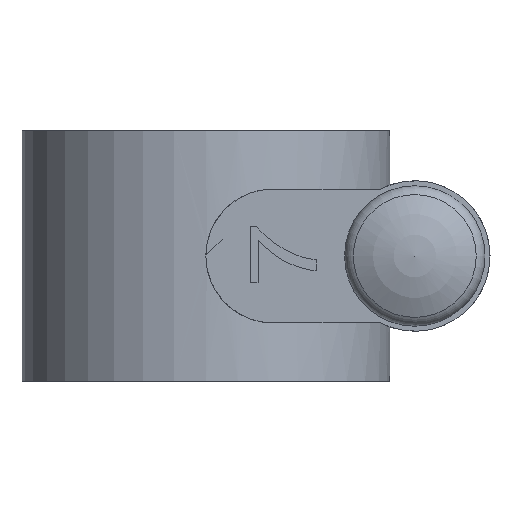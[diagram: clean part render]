
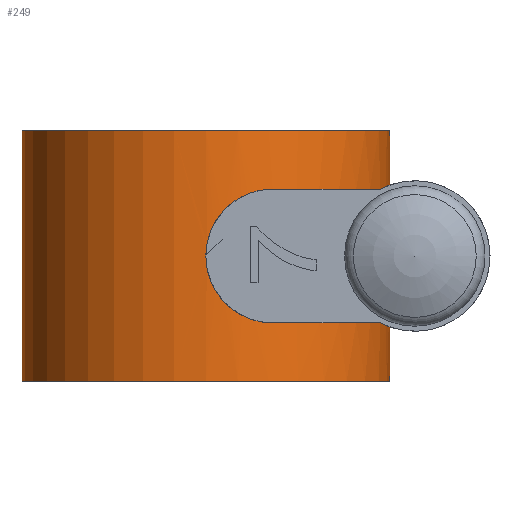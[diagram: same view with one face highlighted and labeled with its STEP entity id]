
A CAD part, front view. The second image highlights one B-rep face of the part: STEP entity #249.
In plain terms, the highlighted cylindrical face has radius 5.5 mm (diameter 11 mm), a partial arc.
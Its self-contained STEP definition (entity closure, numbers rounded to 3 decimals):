
#81=B_SPLINE_CURVE_WITH_KNOTS('',3,(#1064,#1065,#1066,#1067,#1068,#1069,
#1070,#1071,#1072,#1073,#1074,#1075,#1076,#1077,#1078,#1079,#1080,#1081,
#1082),.UNSPECIFIED.,.F.,.F.,(4,3,3,3,3,3,4),(0.,0.043,0.255,
0.467,0.676,0.881,1.),.UNSPECIFIED.);
#82=B_SPLINE_CURVE_WITH_KNOTS('',3,(#1139,#1140,#1141,#1142),
 .UNSPECIFIED.,.F.,.F.,(4,4),(0.,1.),.UNSPECIFIED.);
#83=B_SPLINE_CURVE_WITH_KNOTS('',3,(#1143,#1144,#1145,#1146),
 .UNSPECIFIED.,.F.,.F.,(4,4),(0.,1.),.UNSPECIFIED.);
#84=B_SPLINE_CURVE_WITH_KNOTS('',3,(#1149,#1150,#1151,#1152,#1153,#1154,
#1155,#1156,#1157,#1158,#1159,#1160,#1161,#1162,#1163,#1164),
 .UNSPECIFIED.,.F.,.F.,(4,3,3,3,3,4),(0.,0.211,0.422,
0.626,0.832,1.),.UNSPECIFIED.);
#129=CYLINDRICAL_SURFACE('',#755,5.5);
#151=LINE('',#1039,#198);
#161=LINE('',#1086,#208);
#164=LINE('',#1134,#211);
#198=VECTOR('',#829,1.);
#208=VECTOR('',#857,1.);
#211=VECTOR('',#874,1.);
#249=ADVANCED_FACE('',(#290),#129,.T.);
#290=FACE_OUTER_BOUND('',#322,.T.);
#322=EDGE_LOOP('',(#421,#422,#423,#424,#425,#426,#427,#428,#429,#430,#431));
#421=ORIENTED_EDGE('',*,*,#640,.F.);
#422=ORIENTED_EDGE('',*,*,#641,.T.);
#423=ORIENTED_EDGE('',*,*,#630,.T.);
#424=ORIENTED_EDGE('',*,*,#596,.T.);
#425=ORIENTED_EDGE('',*,*,#615,.F.);
#426=ORIENTED_EDGE('',*,*,#604,.F.);
#427=ORIENTED_EDGE('',*,*,#639,.T.);
#428=ORIENTED_EDGE('',*,*,#642,.T.);
#429=ORIENTED_EDGE('',*,*,#643,.F.);
#430=ORIENTED_EDGE('',*,*,#628,.F.);
#431=ORIENTED_EDGE('',*,*,#644,.F.);
#521=VERTEX_POINT('',#1002);
#522=VERTEX_POINT('',#1003);
#529=VERTEX_POINT('',#1019);
#530=VERTEX_POINT('',#1020);
#544=VERTEX_POINT('',#1063);
#545=VERTEX_POINT('',#1083);
#546=VERTEX_POINT('',#1087);
#551=VERTEX_POINT('',#1133);
#552=VERTEX_POINT('',#1137);
#553=VERTEX_POINT('',#1138);
#554=VERTEX_POINT('',#1147);
#596=EDGE_CURVE('',#521,#522,#696,.T.);
#604=EDGE_CURVE('',#529,#530,#698,.T.);
#615=EDGE_CURVE('',#530,#522,#151,.T.);
#628=EDGE_CURVE('',#544,#545,#81,.T.);
#630=EDGE_CURVE('',#546,#521,#161,.T.);
#639=EDGE_CURVE('',#529,#551,#164,.T.);
#640=EDGE_CURVE('',#552,#553,#710,.T.);
#641=EDGE_CURVE('',#552,#546,#82,.T.);
#642=EDGE_CURVE('',#551,#554,#83,.T.);
#643=EDGE_CURVE('',#545,#554,#711,.T.);
#644=EDGE_CURVE('',#553,#544,#84,.T.);
#696=CIRCLE('',#729,5.5);
#698=CIRCLE('',#732,5.5);
#710=CIRCLE('',#753,5.5);
#711=CIRCLE('',#754,5.5);
#729=AXIS2_PLACEMENT_3D('',#1001,#800,#801);
#732=AXIS2_PLACEMENT_3D('',#1018,#812,#813);
#753=AXIS2_PLACEMENT_3D('',#1136,#877,#878);
#754=AXIS2_PLACEMENT_3D('',#1148,#879,#880);
#755=AXIS2_PLACEMENT_3D('',#1165,#881,#882);
#800=DIRECTION('',(0.,0.,-1.));
#801=DIRECTION('',(-1.,0.,0.));
#812=DIRECTION('',(0.,0.,-1.));
#813=DIRECTION('',(-1.,0.,0.));
#829=DIRECTION('',(0.,0.,1.));
#857=DIRECTION('',(0.,0.,1.));
#874=DIRECTION('',(0.,0.,1.));
#877=DIRECTION('',(0.,0.,-1.));
#878=DIRECTION('',(-1.,0.,0.));
#879=DIRECTION('',(0.,0.,1.));
#880=DIRECTION('',(1.,0.,0.));
#881=DIRECTION('',(0.,0.,1.));
#882=DIRECTION('',(1.,0.,0.));
#1001=CARTESIAN_POINT('',(-3.,0.,3.75));
#1002=CARTESIAN_POINT('',(2.5,0.,3.75));
#1003=CARTESIAN_POINT('',(-8.5,0.,3.75));
#1018=CARTESIAN_POINT('',(-3.,0.,-3.75));
#1019=CARTESIAN_POINT('',(2.5,0.,-3.75));
#1020=CARTESIAN_POINT('',(-8.5,0.,-3.75));
#1039=CARTESIAN_POINT('',(-8.5,0.,-3.75));
#1063=CARTESIAN_POINT('',(-3.,-5.5,0.));
#1064=CARTESIAN_POINT('',(-3.,-5.5,0.));
#1065=CARTESIAN_POINT('',(-3.,-5.5,-0.046));
#1066=CARTESIAN_POINT('',(-2.998,-5.5,-0.092));
#1067=CARTESIAN_POINT('',(-2.995,-5.5,-0.138));
#1068=CARTESIAN_POINT('',(-2.98,-5.5,-0.361));
#1069=CARTESIAN_POINT('',(-2.926,-5.5,-0.585));
#1070=CARTESIAN_POINT('',(-2.837,-5.498,-0.791));
#1071=CARTESIAN_POINT('',(-2.749,-5.495,-0.996));
#1072=CARTESIAN_POINT('',(-2.623,-5.489,-1.189));
#1073=CARTESIAN_POINT('',(-2.472,-5.475,-1.354));
#1074=CARTESIAN_POINT('',(-2.323,-5.46,-1.516));
#1075=CARTESIAN_POINT('',(-2.143,-5.436,-1.655));
#1076=CARTESIAN_POINT('',(-1.951,-5.399,-1.759));
#1077=CARTESIAN_POINT('',(-1.764,-5.363,-1.861));
#1078=CARTESIAN_POINT('',(-1.559,-5.312,-1.931));
#1079=CARTESIAN_POINT('',(-1.355,-5.248,-1.968));
#1080=CARTESIAN_POINT('',(-1.237,-5.211,-1.99));
#1081=CARTESIAN_POINT('',(-1.117,-5.169,-2.));
#1082=CARTESIAN_POINT('',(-1.,-5.123,-2.));
#1083=CARTESIAN_POINT('',(-1.,-5.123,-2.));
#1086=CARTESIAN_POINT('',(2.5,0.,-3.75));
#1087=CARTESIAN_POINT('',(2.5,0.,2.121));
#1133=CARTESIAN_POINT('',(2.5,0.,-2.121));
#1134=CARTESIAN_POINT('',(2.5,0.,-3.75));
#1136=CARTESIAN_POINT('',(-3.,0.,2.));
#1137=CARTESIAN_POINT('',(2.219,-1.735,2.));
#1138=CARTESIAN_POINT('',(-1.,-5.123,2.));
#1139=CARTESIAN_POINT('',(2.219,-1.735,2.));
#1140=CARTESIAN_POINT('',(2.403,-1.181,2.095));
#1141=CARTESIAN_POINT('',(2.5,-0.595,2.121));
#1142=CARTESIAN_POINT('',(2.5,0.,2.121));
#1143=CARTESIAN_POINT('',(2.5,0.,-2.121));
#1144=CARTESIAN_POINT('',(2.5,-0.596,-2.121));
#1145=CARTESIAN_POINT('',(2.405,-1.177,-2.096));
#1146=CARTESIAN_POINT('',(2.219,-1.735,-2.));
#1147=CARTESIAN_POINT('',(2.219,-1.735,-2.));
#1148=CARTESIAN_POINT('',(-3.,0.,-2.));
#1149=CARTESIAN_POINT('',(-1.,-5.123,2.));
#1150=CARTESIAN_POINT('',(-1.207,-5.204,2.));
#1151=CARTESIAN_POINT('',(-1.423,-5.273,1.967));
#1152=CARTESIAN_POINT('',(-1.629,-5.326,1.899));
#1153=CARTESIAN_POINT('',(-1.834,-5.379,1.831));
#1154=CARTESIAN_POINT('',(-2.035,-5.418,1.726));
#1155=CARTESIAN_POINT('',(-2.211,-5.443,1.591));
#1156=CARTESIAN_POINT('',(-2.382,-5.468,1.461));
#1157=CARTESIAN_POINT('',(-2.534,-5.482,1.301));
#1158=CARTESIAN_POINT('',(-2.655,-5.489,1.122));
#1159=CARTESIAN_POINT('',(-2.778,-5.497,0.942));
#1160=CARTESIAN_POINT('',(-2.872,-5.499,0.738));
#1161=CARTESIAN_POINT('',(-2.929,-5.5,0.527));
#1162=CARTESIAN_POINT('',(-2.976,-5.5,0.356));
#1163=CARTESIAN_POINT('',(-3.,-5.5,0.177));
#1164=CARTESIAN_POINT('',(-3.,-5.5,0.));
#1165=CARTESIAN_POINT('',(-3.,0.,-3.75));
